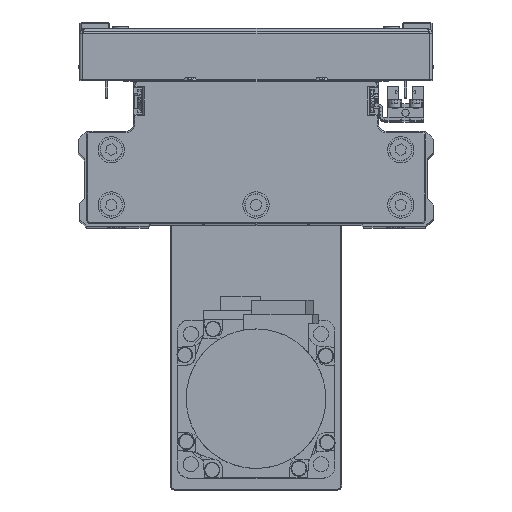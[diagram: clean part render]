
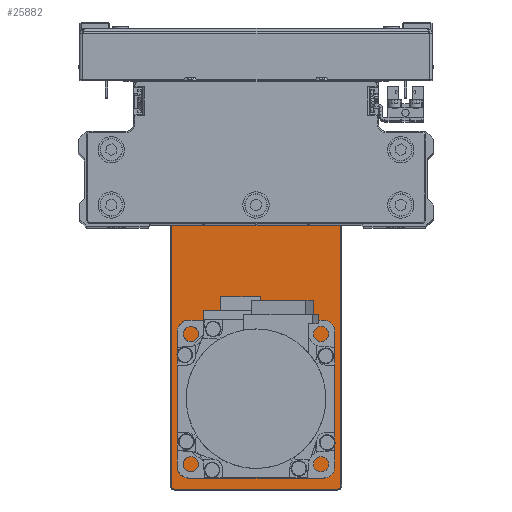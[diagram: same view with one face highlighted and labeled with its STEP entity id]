
A CAD part, top view. The second image highlights one B-rep face of the part: STEP entity #25882.
In plain terms, the highlighted planar face has unit normal (0, 0, 1) as drawn and (0, 1, 0) by its records, which use the part's own axes.
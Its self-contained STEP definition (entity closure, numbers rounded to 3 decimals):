
#172 = AXIS2_PLACEMENT_3D ( 'NONE', #24582, #38024, #7826 ) ;
#265 = AXIS2_PLACEMENT_3D ( 'NONE', #5280, #18721, #32163 ) ;
#388 = CARTESIAN_POINT ( 'NONE',  ( -84.7, 6., 0. ) ) ;
#765 = CARTESIAN_POINT ( 'NONE',  ( -50.5, 6., 0. ) ) ;
#776 = CARTESIAN_POINT ( 'NONE',  ( 75.992, 6., -8.551 ) ) ;
#868 = VERTEX_POINT ( 'NONE', #25207 ) ;
#1050 = VECTOR ( 'NONE', #22570, 1000. ) ;
#1588 = CARTESIAN_POINT ( 'NONE',  ( 0., 6., 0. ) ) ;
#1647 = DIRECTION ( 'NONE',  ( 0., 0., 1. ) ) ;
#1917 = VERTEX_POINT ( 'NONE', #10637 ) ;
#2018 = AXIS2_PLACEMENT_3D ( 'NONE', #776, #14240, #27689 ) ;
#2169 = ORIENTED_EDGE ( 'NONE', *, *, #6711, .F. ) ;
#2304 = ORIENTED_EDGE ( 'NONE', *, *, #3302, .F. ) ;
#2839 = VECTOR ( 'NONE', #19793, 1000. ) ;
#2995 = CARTESIAN_POINT ( 'NONE',  ( 83.5, 6., -32.2 ) ) ;
#3075 = CIRCLE ( 'NONE', #27742, 1.525 ) ;
#3302 = EDGE_CURVE ( 'NONE', #31181, #1917, #21018, .T. ) ;
#3406 = VERTEX_POINT ( 'NONE', #14901 ) ;
#3462 = CARTESIAN_POINT ( 'NONE',  ( -83.5, 6., 32.2 ) ) ;
#3813 = DIRECTION ( 'NONE',  ( 0., 1., 0. ) ) ;
#3841 = CIRCLE ( 'NONE', #9478, 15. ) ;
#3964 = EDGE_CURVE ( 'NONE', #34042, #37280, #41499, .T. ) ;
#4150 = EDGE_LOOP ( 'NONE', ( #2304, #2169 ) ) ;
#4517 = AXIS2_PLACEMENT_3D ( 'NONE', #5021, #18464, #31914 ) ;
#4888 = FACE_OUTER_BOUND ( 'NONE', #23598, .T. ) ;
#5021 = CARTESIAN_POINT ( 'NONE',  ( -83.5, 6., 31. ) ) ;
#5280 = CARTESIAN_POINT ( 'NONE',  ( 83.5, 6., -31. ) ) ;
#5371 = AXIS2_PLACEMENT_3D ( 'NONE', #25380, #38816, #8613 ) ;
#5753 = ORIENTED_EDGE ( 'NONE', *, *, #11173, .F. ) ;
#5755 = ORIENTED_EDGE ( 'NONE', *, *, #8852, .T. ) ;
#5996 = ORIENTED_EDGE ( 'NONE', *, *, #7515, .T. ) ;
#6266 = DIRECTION ( 'NONE',  ( 0., 0., 1. ) ) ;
#6349 = CARTESIAN_POINT ( 'NONE',  ( 84.7, 6., 0. ) ) ;
#6371 = DIRECTION ( 'NONE',  ( 0., 0., -1. ) ) ;
#6711 = EDGE_CURVE ( 'NONE', #1917, #31181, #38009, .T. ) ;
#7325 = DIRECTION ( 'NONE',  ( 0., -1., 0. ) ) ;
#7515 = EDGE_CURVE ( 'NONE', #42677, #29720, #19199, .T. ) ;
#7826 = DIRECTION ( 'NONE',  ( 0., 0., -1. ) ) ;
#8195 = FACE_BOUND ( 'NONE', #16613, .T. ) ;
#8523 = ORIENTED_EDGE ( 'NONE', *, *, #27252, .F. ) ;
#8539 = AXIS2_PLACEMENT_3D ( 'NONE', #37519, #7325, #20763 ) ;
#8613 = DIRECTION ( 'NONE',  ( 0., 0., -1. ) ) ;
#8714 = CARTESIAN_POINT ( 'NONE',  ( 61.051, 6., 21.967 ) ) ;
#8852 = EDGE_CURVE ( 'NONE', #28544, #21338, #23510, .T. ) ;
#9122 = CARTESIAN_POINT ( 'NONE',  ( 0., 6., 32.2 ) ) ;
#9478 = AXIS2_PLACEMENT_3D ( 'NONE', #765, #14232, #27680 ) ;
#9495 = EDGE_CURVE ( 'NONE', #36139, #37015, #3841, .T. ) ;
#9737 = EDGE_CURVE ( 'NONE', #21338, #42677, #39319, .T. ) ;
#9778 = ORIENTED_EDGE ( 'NONE', *, *, #9495, .F. ) ;
#9903 = CARTESIAN_POINT ( 'NONE',  ( -50.5, 6., 15. ) ) ;
#10394 = CARTESIAN_POINT ( 'NONE',  ( 0., 6., -32.2 ) ) ;
#10637 = CARTESIAN_POINT ( 'NONE',  ( 75.992, 6., -10.076 ) ) ;
#10703 = AXIS2_PLACEMENT_3D ( 'NONE', #1588, #15048, #28495 ) ;
#11173 = EDGE_CURVE ( 'NONE', #37015, #36139, #19474, .T. ) ;
#11233 = CARTESIAN_POINT ( 'NONE',  ( -83.5, 6., -32.2 ) ) ;
#11305 = DIRECTION ( 'NONE',  ( 0., 1., 0. ) ) ;
#11916 = EDGE_CURVE ( 'NONE', #868, #28544, #30610, .T. ) ;
#12157 = CARTESIAN_POINT ( 'NONE',  ( 84.7, 6., 31. ) ) ;
#12438 = CARTESIAN_POINT ( 'NONE',  ( -84.7, 6., 31. ) ) ;
#13857 = DIRECTION ( 'NONE',  ( 0., 0., 1. ) ) ;
#14232 = DIRECTION ( 'NONE',  ( 0., 1., 0. ) ) ;
#14240 = DIRECTION ( 'NONE',  ( 0., 1., 0. ) ) ;
#14901 = CARTESIAN_POINT ( 'NONE',  ( 84.7, 6., -31. ) ) ;
#15043 = ORIENTED_EDGE ( 'NONE', *, *, #16633, .F. ) ;
#15048 = DIRECTION ( 'NONE',  ( 0., -1., 0. ) ) ;
#15259 = ORIENTED_EDGE ( 'NONE', *, *, #9737, .T. ) ;
#15564 = CIRCLE ( 'NONE', #40190, 1.525 ) ;
#15636 = ORIENTED_EDGE ( 'NONE', *, *, #34044, .T. ) ;
#16613 = EDGE_LOOP ( 'NONE', ( #8523, #15043 ) ) ;
#16633 = EDGE_CURVE ( 'NONE', #23462, #31216, #3075, .T. ) ;
#16657 = ORIENTED_EDGE ( 'NONE', *, *, #29689, .T. ) ;
#17259 = DIRECTION ( 'NONE',  ( 0., 0., 1. ) ) ;
#17508 = CARTESIAN_POINT ( 'NONE',  ( 75.992, 6., -7.026 ) ) ;
#18334 = FACE_BOUND ( 'NONE', #21689, .T. ) ;
#18393 = CARTESIAN_POINT ( 'NONE',  ( 61.051, 6., 23.492 ) ) ;
#18464 = DIRECTION ( 'NONE',  ( 0., 1., 0. ) ) ;
#18721 = DIRECTION ( 'NONE',  ( 0., 1., 0. ) ) ;
#18999 = AXIS2_PLACEMENT_3D ( 'NONE', #41506, #11305, #24752 ) ;
#19199 = CIRCLE ( 'NONE', #172, 1.2 ) ;
#19295 = CIRCLE ( 'NONE', #265, 1.2 ) ;
#19474 = CIRCLE ( 'NONE', #25129, 15. ) ;
#19793 = DIRECTION ( 'NONE',  ( 0., 0., -1. ) ) ;
#19931 = ORIENTED_EDGE ( 'NONE', *, *, #11916, .T. ) ;
#20763 = DIRECTION ( 'NONE',  ( 0., 0., -1. ) ) ;
#21018 = CIRCLE ( 'NONE', #2018, 1.525 ) ;
#21338 = VERTEX_POINT ( 'NONE', #3462 ) ;
#21631 = FACE_BOUND ( 'NONE', #4150, .T. ) ;
#21689 = EDGE_LOOP ( 'NONE', ( #5753, #9778 ) ) ;
#22471 = AXIS2_PLACEMENT_3D ( 'NONE', #23115, #36560, #6371 ) ;
#22570 = DIRECTION ( 'NONE',  ( 1., 0., 0. ) ) ;
#22938 = VECTOR ( 'NONE', #13857, 1000. ) ;
#23014 = CARTESIAN_POINT ( 'NONE',  ( 61.051, 6., 23.492 ) ) ;
#23115 = CARTESIAN_POINT ( 'NONE',  ( 52.5, 6., 0. ) ) ;
#23462 = VERTEX_POINT ( 'NONE', #8714 ) ;
#23510 = CIRCLE ( 'NONE', #4517, 1.2 ) ;
#23598 = EDGE_LOOP ( 'NONE', ( #28842, #15636, #16657, #19931, #5755, #15259, #5996, #42901 ) ) ;
#23838 = DIRECTION ( 'NONE',  ( -1., 0., 0. ) ) ;
#24379 = CIRCLE ( 'NONE', #5371, 1.2 ) ;
#24582 = CARTESIAN_POINT ( 'NONE',  ( 83.5, 6., 31. ) ) ;
#24752 = DIRECTION ( 'NONE',  ( 0., 0., 1. ) ) ;
#25129 = AXIS2_PLACEMENT_3D ( 'NONE', #34006, #3813, #17259 ) ;
#25207 = CARTESIAN_POINT ( 'NONE',  ( -84.7, 6., -31. ) ) ;
#25380 = CARTESIAN_POINT ( 'NONE',  ( -83.5, 6., -31. ) ) ;
#25882 = ADVANCED_FACE ( 'NONE', ( #8195, #21631, #35079, #4888, #18334 ), #31778, .F. ) ;
#26333 = ORIENTED_EDGE ( 'NONE', *, *, #27568, .T. ) ;
#26585 = EDGE_CURVE ( 'NONE', #29720, #3406, #36537, .T. ) ;
#27153 = CARTESIAN_POINT ( 'NONE',  ( 52.5, 6., 10.3 ) ) ;
#27252 = EDGE_CURVE ( 'NONE', #31216, #23462, #15564, .T. ) ;
#27553 = CIRCLE ( 'NONE', #8539, 10.3 ) ;
#27568 = EDGE_CURVE ( 'NONE', #37280, #34042, #27553, .T. ) ;
#27680 = DIRECTION ( 'NONE',  ( 0., 0., 1. ) ) ;
#27689 = DIRECTION ( 'NONE',  ( 0., 0., 1. ) ) ;
#27742 = AXIS2_PLACEMENT_3D ( 'NONE', #23014, #36452, #6266 ) ;
#28220 = VERTEX_POINT ( 'NONE', #2995 ) ;
#28495 = DIRECTION ( 'NONE',  ( 0., 0., -1. ) ) ;
#28544 = VERTEX_POINT ( 'NONE', #12438 ) ;
#28842 = ORIENTED_EDGE ( 'NONE', *, *, #35736, .T. ) ;
#29689 = EDGE_CURVE ( 'NONE', #43379, #868, #24379, .T. ) ;
#29720 = VERTEX_POINT ( 'NONE', #12157 ) ;
#30610 = LINE ( 'NONE', #388, #22938 ) ;
#31181 = VERTEX_POINT ( 'NONE', #17508 ) ;
#31216 = VERTEX_POINT ( 'NONE', #33709 ) ;
#31778 = PLANE ( 'NONE',  #10703 ) ;
#31837 = DIRECTION ( 'NONE',  ( 0., 1., 0. ) ) ;
#31914 = DIRECTION ( 'NONE',  ( 0., 0., -1. ) ) ;
#32111 = CARTESIAN_POINT ( 'NONE',  ( -50.5, 6., -15. ) ) ;
#32163 = DIRECTION ( 'NONE',  ( 0., 0., -1. ) ) ;
#32993 = VECTOR ( 'NONE', #23838, 1000. ) ;
#33709 = CARTESIAN_POINT ( 'NONE',  ( 61.051, 6., 25.017 ) ) ;
#34006 = CARTESIAN_POINT ( 'NONE',  ( -50.5, 6., 0. ) ) ;
#34042 = VERTEX_POINT ( 'NONE', #27153 ) ;
#34044 = EDGE_CURVE ( 'NONE', #28220, #43379, #40600, .T. ) ;
#34333 = EDGE_LOOP ( 'NONE', ( #41962, #26333 ) ) ;
#35079 = FACE_BOUND ( 'NONE', #34333, .T. ) ;
#35736 = EDGE_CURVE ( 'NONE', #3406, #28220, #19295, .T. ) ;
#36139 = VERTEX_POINT ( 'NONE', #32111 ) ;
#36452 = DIRECTION ( 'NONE',  ( 0., 1., 0. ) ) ;
#36537 = LINE ( 'NONE', #6349, #2839 ) ;
#36560 = DIRECTION ( 'NONE',  ( 0., -1., 0. ) ) ;
#36948 = CARTESIAN_POINT ( 'NONE',  ( 52.5, 6., -10.3 ) ) ;
#37015 = VERTEX_POINT ( 'NONE', #9903 ) ;
#37280 = VERTEX_POINT ( 'NONE', #36948 ) ;
#37519 = CARTESIAN_POINT ( 'NONE',  ( 52.5, 6., 0. ) ) ;
#37548 = CARTESIAN_POINT ( 'NONE',  ( 83.5, 6., 32.2 ) ) ;
#38009 = CIRCLE ( 'NONE', #18999, 1.525 ) ;
#38024 = DIRECTION ( 'NONE',  ( 0., 1., 0. ) ) ;
#38816 = DIRECTION ( 'NONE',  ( 0., 1., 0. ) ) ;
#39319 = LINE ( 'NONE', #9122, #1050 ) ;
#40190 = AXIS2_PLACEMENT_3D ( 'NONE', #18393, #31837, #1647 ) ;
#40600 = LINE ( 'NONE', #10394, #32993 ) ;
#41499 = CIRCLE ( 'NONE', #22471, 10.3 ) ;
#41506 = CARTESIAN_POINT ( 'NONE',  ( 75.992, 6., -8.551 ) ) ;
#41962 = ORIENTED_EDGE ( 'NONE', *, *, #3964, .T. ) ;
#42677 = VERTEX_POINT ( 'NONE', #37548 ) ;
#42901 = ORIENTED_EDGE ( 'NONE', *, *, #26585, .T. ) ;
#43379 = VERTEX_POINT ( 'NONE', #11233 ) ;
